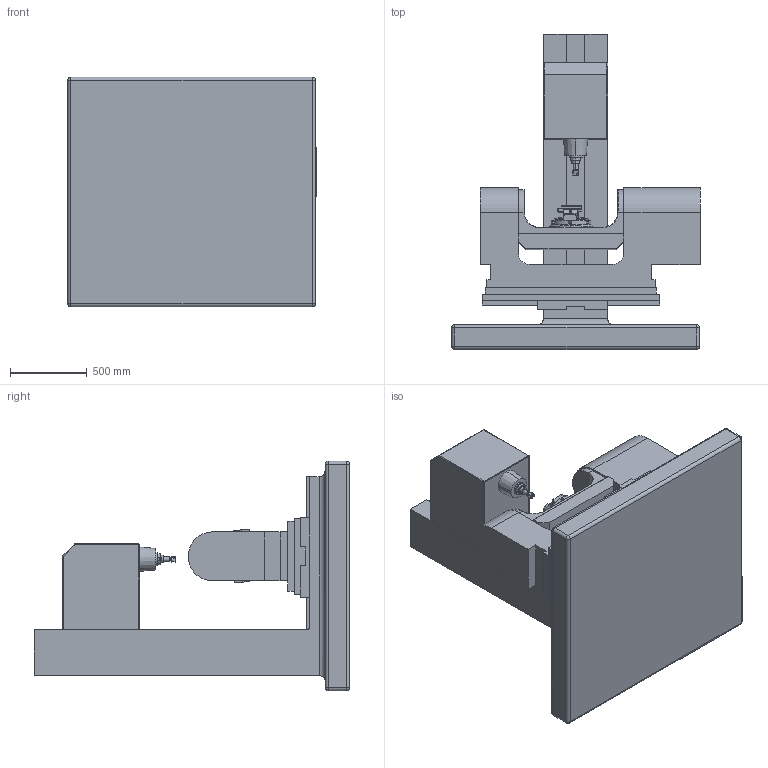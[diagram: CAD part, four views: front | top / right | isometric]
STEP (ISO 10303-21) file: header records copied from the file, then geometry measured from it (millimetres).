
FILE_DESCRIPTION (( 'STEP AP203' ), '1' );
FILE_NAME ('machine.STEP', '2009-12-04T11:24:50', ( 'Famille Couzi' ), ( '' ), 'SwSTEP 2.0', 'SolidWorks 2005143', '' );
FILE_SCHEMA (( 'CONFIG_CONTROL_DESIGN' ));
Length unit declared in the file: millimetre
Products named in the file (17): Coulisseau_Défaut; Transversal_Défaut; etau out 88; mors mobile; machine; FRAISE 2T ARS 40 MM_Défaut; Cone SA40_Défaut; Nez de Broche_Défaut; bas de Table_Défaut; butee; cale; chariot ph20_Défaut; bride; plateau; table; chariot
Assembly tree (19 placements, depth 3):
  machine
    Nez de Broche_Défaut
    bas de Table_Défaut
    plateau
    table
    cale
    chariot ph20_Défaut
    bride  x4
    chariot
    Transversal_Défaut
    butee
    Coulisseau_Défaut
    FRAISE 2T ARS 40 MM_Défaut
    etau out 88
      etau out 88
      mors mobile
    Cone SA40_Défaut
Bounding box: 1625.67 x 2060 x 1500 mm (x, y, z)
Volume: 1054890705.6 mm3; surface area: 16443353.4 mm2
Topology: 18 solids, 18 shells, 692 faces, 1688 edges, 1041 vertices
Faces by surface type: plane 409, cylinder 187, cone 70, sphere 14, torus 8, bspline 4
Entity records: 19434 total; most frequent: CARTESIAN_POINT 3411, DIRECTION 3035, ORIENTED_EDGE 2842, EDGE_CURVE 1421, AXIS2_PLACEMENT_3D 1025, LINE 985, VECTOR 985, VERTEX_POINT 897
